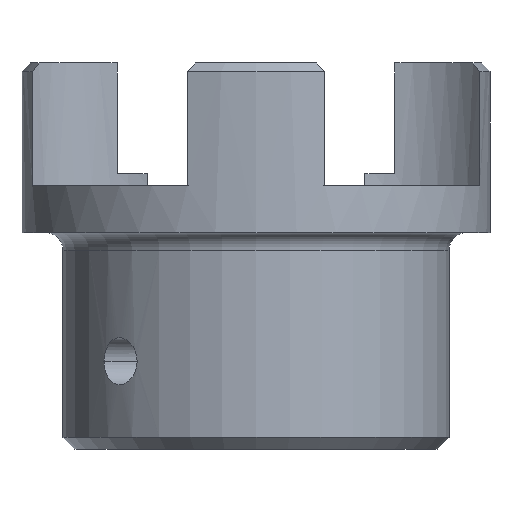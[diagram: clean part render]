
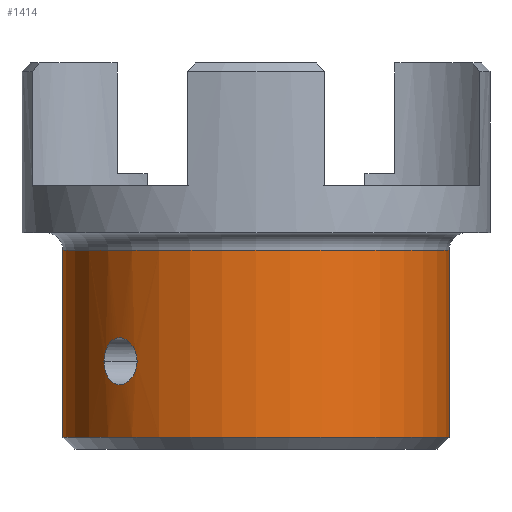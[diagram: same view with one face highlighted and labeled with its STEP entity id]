
A CAD part, left-side view. The second image highlights one B-rep face of the part: STEP entity #1414.
In plain terms, the highlighted cylindrical face has radius 33 mm (diameter 66 mm), a partial arc.
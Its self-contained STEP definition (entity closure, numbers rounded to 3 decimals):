
#501=CARTESIAN_POINT('',(0.,0.,-43.));
#502=DIRECTION('',(0.,0.,1.));
#503=DIRECTION('',(0.,1.,0.));
#504=AXIS2_PLACEMENT_3D('',#501,#502,#503);
#519=DIRECTION('',(0.,0.,1.));
#520=VECTOR('',#519,32.);
#521=CARTESIAN_POINT('',(0.,-33.,-43.));
#522=LINE('',#521,#520);
#523=DIRECTION('',(0.,0.,1.));
#524=VECTOR('',#523,32.);
#525=CARTESIAN_POINT('',(0.,33.,-43.));
#526=LINE('',#525,#524);
#527=CARTESIAN_POINT('',(-20.334,25.991,-30.));
#528=CARTESIAN_POINT('',(-20.334,25.991,-29.673));
#529=CARTESIAN_POINT('',(-20.396,25.943,-29.039));
#530=CARTESIAN_POINT('',(-20.668,25.728,-28.125));
#531=CARTESIAN_POINT('',(-21.1,25.376,-27.322));
#532=CARTESIAN_POINT('',(-21.659,24.902,-26.674));
#533=CARTESIAN_POINT('',(-22.305,24.326,-26.222));
#534=CARTESIAN_POINT('',(-22.992,23.679,-25.99));
#535=CARTESIAN_POINT('',(-23.679,22.992,-25.99));
#536=CARTESIAN_POINT('',(-24.326,22.305,-26.222));
#537=CARTESIAN_POINT('',(-24.902,21.659,-26.674));
#538=CARTESIAN_POINT('',(-25.376,21.1,-27.322));
#539=CARTESIAN_POINT('',(-25.728,20.668,-28.125));
#540=CARTESIAN_POINT('',(-25.943,20.396,-29.039));
#541=CARTESIAN_POINT('',(-25.991,20.334,-29.673));
#542=CARTESIAN_POINT('',(-25.991,20.334,-30.));
#544=CARTESIAN_POINT('',(-20.334,25.991,-30.));
#545=CARTESIAN_POINT('',(-20.334,25.991,-30.327));
#546=CARTESIAN_POINT('',(-20.396,25.943,-30.961));
#547=CARTESIAN_POINT('',(-20.668,25.728,-31.875));
#548=CARTESIAN_POINT('',(-21.1,25.376,-32.678));
#549=CARTESIAN_POINT('',(-21.659,24.902,-33.326));
#550=CARTESIAN_POINT('',(-22.305,24.326,-33.778));
#551=CARTESIAN_POINT('',(-22.992,23.679,-34.01));
#552=CARTESIAN_POINT('',(-23.679,22.992,-34.01));
#553=CARTESIAN_POINT('',(-24.326,22.305,-33.778));
#554=CARTESIAN_POINT('',(-24.902,21.659,-33.326));
#555=CARTESIAN_POINT('',(-25.376,21.1,-32.678));
#556=CARTESIAN_POINT('',(-25.728,20.668,-31.875));
#557=CARTESIAN_POINT('',(-25.943,20.396,-30.961));
#558=CARTESIAN_POINT('',(-25.991,20.334,-30.327));
#559=CARTESIAN_POINT('',(-25.991,20.334,-30.));
#566=CARTESIAN_POINT('',(0.,0.,-11.));
#567=DIRECTION('',(0.,0.,-1.));
#568=DIRECTION('',(0.,-1.,0.));
#569=AXIS2_PLACEMENT_3D('',#566,#567,#568);
#637=CARTESIAN_POINT('',(0.,33.,-43.));
#638=CARTESIAN_POINT('',(0.,-33.,-43.));
#639=VERTEX_POINT('',#637);
#640=VERTEX_POINT('',#638);
#649=CARTESIAN_POINT('',(0.,-33.,-11.));
#650=CARTESIAN_POINT('',(0.,33.,-11.));
#651=VERTEX_POINT('',#649);
#652=VERTEX_POINT('',#650);
#673=VERTEX_POINT('',#527);
#674=VERTEX_POINT('',#542);
#1394=CARTESIAN_POINT('',(0.,0.,-6.15));
#1395=DIRECTION('',(0.,0.,-1.));
#1396=DIRECTION('',(0.,-1.,0.));
#1397=AXIS2_PLACEMENT_3D('',#1394,#1395,#1396);
#1398=CYLINDRICAL_SURFACE('',#1397,33.);
#1400=ORIENTED_EDGE('',*,*,#1399,.F.);
#1402=ORIENTED_EDGE('',*,*,#1401,.F.);
#1403=ORIENTED_EDGE('',*,*,#1384,.F.);
#1405=ORIENTED_EDGE('',*,*,#1404,.T.);
#1406=EDGE_LOOP('',(#1400,#1402,#1403,#1405));
#1407=FACE_OUTER_BOUND('',#1406,.F.);
#1409=ORIENTED_EDGE('',*,*,#1408,.F.);
#1411=ORIENTED_EDGE('',*,*,#1410,.T.);
#1412=EDGE_LOOP('',(#1409,#1411));
#1413=FACE_BOUND('',#1412,.F.);
#1414=ADVANCED_FACE('',(#1407,#1413),#1398,.T.);
#505=CIRCLE('',#504,33.);
#543=B_SPLINE_CURVE_WITH_KNOTS('',3,(#527,#528,#529,#530,#531,#532,#533,#534,
#535,#536,#537,#538,#539,#540,#541,#542),.UNSPECIFIED.,.F.,.F.,(4,1,1,1,1,1,1,1,
1,1,1,1,1,4),(0.,0.077,0.154,0.231,
0.308,0.385,0.462,0.538,
0.615,0.692,0.769,0.846,
0.923,1.),.UNSPECIFIED.);
#560=B_SPLINE_CURVE_WITH_KNOTS('',3,(#544,#545,#546,#547,#548,#549,#550,#551,
#552,#553,#554,#555,#556,#557,#558,#559),.UNSPECIFIED.,.F.,.F.,(4,1,1,1,1,1,1,1,
1,1,1,1,1,4),(0.,0.077,0.154,0.231,
0.308,0.385,0.462,0.538,
0.615,0.692,0.769,0.846,
0.923,1.),.UNSPECIFIED.);
#570=CIRCLE('',#569,33.);
#1384=EDGE_CURVE('',#639,#640,#505,.T.);
#1399=EDGE_CURVE('',#651,#652,#570,.T.);
#1401=EDGE_CURVE('',#640,#651,#522,.T.);
#1404=EDGE_CURVE('',#639,#652,#526,.T.);
#1408=EDGE_CURVE('',#673,#674,#543,.T.);
#1410=EDGE_CURVE('',#673,#674,#560,.T.);
